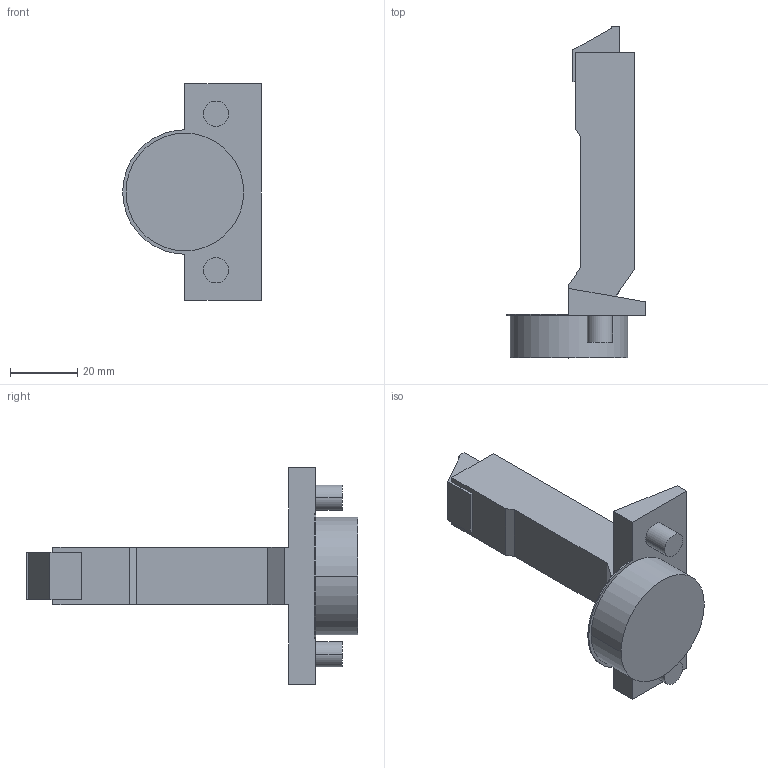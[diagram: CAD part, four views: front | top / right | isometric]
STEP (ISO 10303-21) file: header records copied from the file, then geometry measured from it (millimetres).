
FILE_DESCRIPTION (( 'STEP AP214' ), '1' );
FILE_NAME ('Scharnier T Impresso 120° MB_BB, K00.step', '2010-12-06T09:57:27', ( 'grass' ), ( '' ), 'SwSTEP 2.0', 'SolidWorks 2010', '' );
FILE_SCHEMA (( 'AUTOMOTIVE_DESIGN' ));
Length unit declared in the file: millimetre
Products named in the file (1): Scharnier T Impresso 120° MB_BB, K00
Bounding box: 41.25 x 98.7 x 64.5 mm (x, y, z)
Volume: 42703.1 mm3; surface area: 12262.2 mm2
Topology: 1 solids, 3 shells, 54 faces, 126 edges, 84 vertices
Faces by surface type: plane 37, cylinder 17
Entity records: 1574 total; most frequent: DIRECTION 270, CARTESIAN_POINT 265, ORIENTED_EDGE 252, EDGE_CURVE 126, LINE 92, VECTOR 92, AXIS2_PLACEMENT_3D 89, VERTEX_POINT 84
